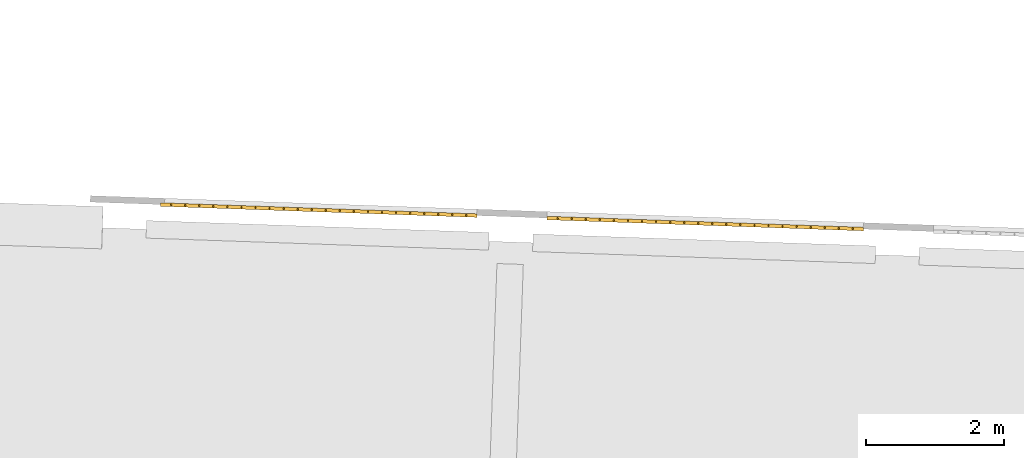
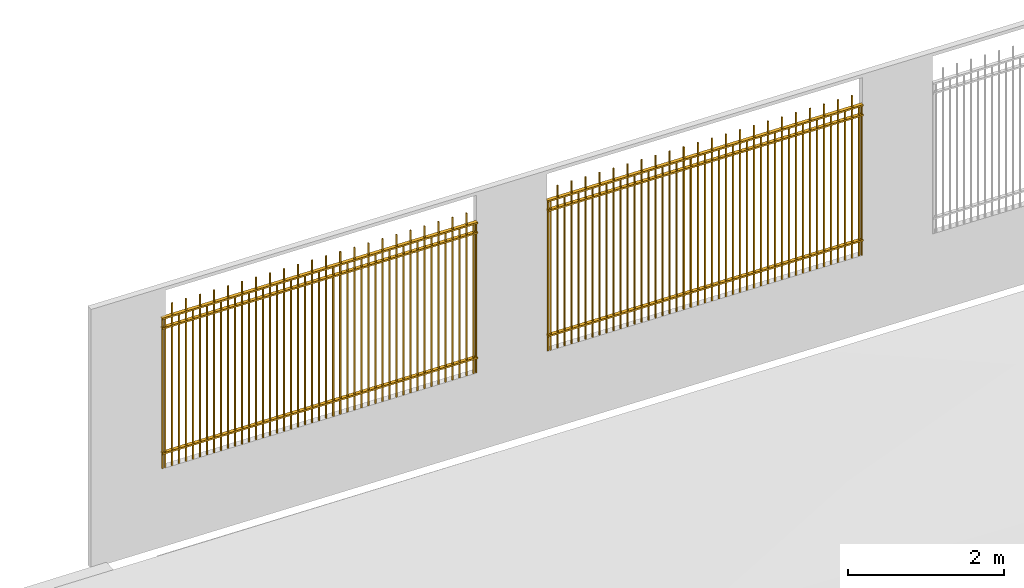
# One storey, part 13 of 17: 2 railings.
"""IFC2X3 building model written with IfcOpenShell, lengths in feet."""

from ifc_helpers import new_model, entity, si_unit, converted_unit, derived_unit, direction, frame, frame_2d, origin, origin_2d_with_axis, place, context, subcontext, project, spatial, rectangle, extrude, element, save


model = new_model("IFC2X3")

# Units and contexts
model_context = context("Model", 3, precision=0.0001, world=origin(), true_north=direction((0.999390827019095, 0.0348994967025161)))
body_context = subcontext(model_context, "Body", "Model", "MODEL_VIEW")
ifc_project = project(units=[converted_unit("LENGTHUNIT", "FOOT", entity("IfcRatioMeasure", 0.3048), si_unit("LENGTHUNIT", "METRE"), dimensions=[1, 0, 0, 0, 0, 0, 0]), converted_unit("AREAUNIT", "SQUARE FOOT", entity("IfcRatioMeasure", 0.09290304), si_unit("AREAUNIT", "SQUARE_METRE"), dimensions=[2, 0, 0, 0, 0, 0, 0]), converted_unit("VOLUMEUNIT", "CUBIC FOOT", entity("IfcRatioMeasure", 0.028316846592), si_unit("VOLUMEUNIT", "CUBIC_METRE"), dimensions=[3, 0, 0, 0, 0, 0, 0]), converted_unit("PLANEANGLEUNIT", "DEGREE", entity("IfcRatioMeasure", 0.0174532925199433), si_unit("PLANEANGLEUNIT", "RADIAN"), dimensions=[0, 0, 0, 0, 0, 0, 0]), si_unit("MASSUNIT", "GRAM", prefix="KILO"), si_unit("TIMEUNIT", "SECOND"), si_unit("FREQUENCYUNIT", "HERTZ"), si_unit("THERMODYNAMICTEMPERATUREUNIT", "DEGREE_CELSIUS"), derived_unit("THERMALTRANSMITTANCEUNIT", [(si_unit("MASSUNIT", "GRAM", prefix="KILO"), 1), (si_unit("THERMODYNAMICTEMPERATUREUNIT", "KELVIN"), -1), (si_unit("TIMEUNIT", "SECOND"), -3)]), derived_unit("VOLUMETRICFLOWRATEUNIT", [(si_unit("LENGTHUNIT", "METRE"), 3), (si_unit("TIMEUNIT", "SECOND"), -1)]), si_unit("ELECTRICCURRENTUNIT", "AMPERE"), si_unit("ELECTRICVOLTAGEUNIT", "VOLT"), si_unit("POWERUNIT", "WATT"), si_unit("FORCEUNIT", "NEWTON"), si_unit("ILLUMINANCEUNIT", "LUX"), si_unit("LUMINOUSFLUXUNIT", "LUMEN"), si_unit("LUMINOUSINTENSITYUNIT", "CANDELA"), derived_unit("USERDEFINED", [(si_unit("MASSUNIT", "GRAM", prefix="KILO"), -1), (si_unit("LENGTHUNIT", "METRE"), -2), (si_unit("TIMEUNIT", "SECOND"), 3), (si_unit("LUMINOUSFLUXUNIT", "LUMEN"), 1)]), derived_unit("LINEARVELOCITYUNIT", [(si_unit("LENGTHUNIT", "METRE"), 1), (si_unit("TIMEUNIT", "SECOND"), -1)]), si_unit("PRESSUREUNIT", "PASCAL"), derived_unit("USERDEFINED", [(si_unit("LENGTHUNIT", "METRE"), -2), (si_unit("MASSUNIT", "GRAM", prefix="KILO"), 1), (si_unit("TIMEUNIT", "SECOND"), -2)])], contexts=[model_context])

# Site, building, storey
site_placement = place(None, frame((892.518771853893, 322.38689265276, 0.00393700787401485), z_axis=(0.0, 0.0, 1.0), x_axis=(0.0348994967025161, 0.999390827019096, 0.0)))
site = spatial("IfcSite", under=ifc_project, at=site_placement, Name="Default", CompositionType="ELEMENT")
building_placement = place(site_placement, origin())
building = spatial("IfcBuilding", under=site, at=building_placement, CompositionType="ELEMENT")
storey_placement = place(building_placement, frame((0.0, 0.0, 557.0)))
storey = spatial("IfcBuildingStorey", under=building, at=storey_placement, Name="Existing Garage - 1st Level", CompositionType="ELEMENT", Elevation=557.0)

# Railings
railing_1_placement = place(storey_placement, origin())
element("IfcRailing", 1, at=railing_1_placement, inside=storey, Name="Railing:Garage Security Grille 8'-4\" High", ObjectType="Railing:Garage Security Grille 8'-4\" High", PredefinedType="NOTDEFINED", context=body_context, shape_type="SweptSolid", body=[
    extrude(rectangle(XDim=0.0625, YDim=0.0625, at=origin_2d_with_axis()), frame((224.1252097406, 344.920203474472, 0.75), z_axis=(0.0, 0.0, 1.0), x_axis=(0.0, 1.0, 0.0)), (0.0, 0.0, 1.0), 7.66666666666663),
    extrude(rectangle(XDim=0.0625, YDim=0.0625, at=origin_2d_with_axis()), frame((224.1252097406, 344.586870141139, 0.75), z_axis=(0.0, 0.0, 1.0), x_axis=(0.0, 1.0, 0.0)), (0.0, 0.0, 1.0), 8.33333333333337),
    extrude(rectangle(XDim=0.0625, YDim=0.0625, at=origin_2d_with_axis()), frame((224.1252097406, 344.253536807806, 0.75), z_axis=(0.0, 0.0, 1.0), x_axis=(0.0, 1.0, 0.0)), (0.0, 0.0, 1.0), 7.66666666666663),
    extrude(rectangle(XDim=0.0625, YDim=0.0625, at=origin_2d_with_axis()), frame((224.1252097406, 343.920203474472, 0.75), z_axis=(0.0, 0.0, 1.0), x_axis=(0.0, 1.0, 0.0)), (0.0, 0.0, 1.0), 8.33333333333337),
    extrude(rectangle(XDim=0.0625, YDim=0.0625, at=origin_2d_with_axis()), frame((224.1252097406, 343.586870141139, 0.75), z_axis=(0.0, 0.0, 1.0), x_axis=(0.0, 1.0, 0.0)), (0.0, 0.0, 1.0), 7.66666666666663),
    extrude(rectangle(XDim=0.0625, YDim=0.0625, at=origin_2d_with_axis()), frame((224.1252097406, 343.253536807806, 0.75), z_axis=(0.0, 0.0, 1.0), x_axis=(0.0, 1.0, 0.0)), (0.0, 0.0, 1.0), 8.33333333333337),
    extrude(rectangle(XDim=0.0625, YDim=0.0625, at=origin_2d_with_axis()), frame((224.1252097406, 342.920203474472, 0.75), z_axis=(0.0, 0.0, 1.0), x_axis=(0.0, 1.0, 0.0)), (0.0, 0.0, 1.0), 7.66666666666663),
    extrude(rectangle(XDim=0.0625, YDim=0.0625, at=origin_2d_with_axis()), frame((224.1252097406, 342.586870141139, 0.75), z_axis=(0.0, 0.0, 1.0), x_axis=(0.0, 1.0, 0.0)), (0.0, 0.0, 1.0), 8.33333333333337),
    extrude(rectangle(XDim=0.0625, YDim=0.0625, at=origin_2d_with_axis()), frame((224.1252097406, 342.253536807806, 0.75), z_axis=(0.0, 0.0, 1.0), x_axis=(0.0, 1.0, 0.0)), (0.0, 0.0, 1.0), 7.66666666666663),
    extrude(rectangle(XDim=0.0625, YDim=0.0625, at=origin_2d_with_axis()), frame((224.1252097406, 341.920203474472, 0.75), z_axis=(0.0, 0.0, 1.0), x_axis=(0.0, 1.0, 0.0)), (0.0, 0.0, 1.0), 8.33333333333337),
    extrude(rectangle(XDim=0.0625, YDim=0.0625, at=origin_2d_with_axis()), frame((224.1252097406, 341.586870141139, 0.75), z_axis=(0.0, 0.0, 1.0), x_axis=(0.0, 1.0, 0.0)), (0.0, 0.0, 1.0), 7.66666666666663),
    extrude(rectangle(XDim=0.0625, YDim=0.0625, at=origin_2d_with_axis()), frame((224.1252097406, 341.253536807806, 0.75), z_axis=(0.0, 0.0, 1.0), x_axis=(0.0, 1.0, 0.0)), (0.0, 0.0, 1.0), 8.33333333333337),
    extrude(rectangle(XDim=0.0625, YDim=0.0625, at=origin_2d_with_axis()), frame((224.1252097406, 340.920203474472, 0.75), z_axis=(0.0, 0.0, 1.0), x_axis=(0.0, 1.0, 0.0)), (0.0, 0.0, 1.0), 7.66666666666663),
    extrude(rectangle(XDim=0.0625, YDim=0.0625, at=origin_2d_with_axis()), frame((224.1252097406, 340.586870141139, 0.75), z_axis=(0.0, 0.0, 1.0), x_axis=(0.0, 1.0, 0.0)), (0.0, 0.0, 1.0), 8.33333333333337),
    extrude(rectangle(XDim=0.0625, YDim=0.0625, at=origin_2d_with_axis()), frame((224.1252097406, 340.253536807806, 0.75), z_axis=(0.0, 0.0, 1.0), x_axis=(0.0, 1.0, 0.0)), (0.0, 0.0, 1.0), 7.66666666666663),
    extrude(rectangle(XDim=0.0625, YDim=0.0625, at=origin_2d_with_axis()), frame((224.1252097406, 339.920203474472, 0.75), z_axis=(0.0, 0.0, 1.0), x_axis=(0.0, 1.0, 0.0)), (0.0, 0.0, 1.0), 8.33333333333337),
    extrude(rectangle(XDim=0.0625, YDim=0.0625, at=origin_2d_with_axis()), frame((224.1252097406, 339.586870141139, 0.75), z_axis=(0.0, 0.0, 1.0), x_axis=(0.0, 1.0, 0.0)), (0.0, 0.0, 1.0), 7.66666666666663),
    extrude(rectangle(XDim=0.0625, YDim=0.0625, at=origin_2d_with_axis()), frame((224.1252097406, 339.253536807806, 0.75), z_axis=(0.0, 0.0, 1.0), x_axis=(0.0, 1.0, 0.0)), (0.0, 0.0, 1.0), 8.33333333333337),
    extrude(rectangle(XDim=0.0625, YDim=0.0625, at=origin_2d_with_axis()), frame((224.1252097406, 338.920203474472, 0.75), z_axis=(0.0, 0.0, 1.0), x_axis=(0.0, 1.0, 0.0)), (0.0, 0.0, 1.0), 7.66666666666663),
    extrude(rectangle(XDim=0.0625, YDim=0.0625, at=origin_2d_with_axis()), frame((224.1252097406, 338.586870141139, 0.75), z_axis=(0.0, 0.0, 1.0), x_axis=(0.0, 1.0, 0.0)), (0.0, 0.0, 1.0), 8.33333333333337),
    extrude(rectangle(XDim=0.0625, YDim=0.0625, at=origin_2d_with_axis()), frame((224.1252097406, 338.253536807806, 0.75), z_axis=(0.0, 0.0, 1.0), x_axis=(0.0, 1.0, 0.0)), (0.0, 0.0, 1.0), 7.66666666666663),
    extrude(rectangle(XDim=0.0625, YDim=0.0625, at=origin_2d_with_axis()), frame((224.1252097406, 337.920203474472, 0.75), z_axis=(0.0, 0.0, 1.0), x_axis=(0.0, 1.0, 0.0)), (0.0, 0.0, 1.0), 8.33333333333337),
    extrude(rectangle(XDim=0.0625, YDim=0.0625, at=origin_2d_with_axis()), frame((224.1252097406, 337.586870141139, 0.75), z_axis=(0.0, 0.0, 1.0), x_axis=(0.0, 1.0, 0.0)), (0.0, 0.0, 1.0), 7.66666666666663),
    extrude(rectangle(XDim=0.0625, YDim=0.0625, at=origin_2d_with_axis()), frame((224.1252097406, 337.253536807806, 0.75), z_axis=(0.0, 0.0, 1.0), x_axis=(0.0, 1.0, 0.0)), (0.0, 0.0, 1.0), 8.33333333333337),
    extrude(rectangle(XDim=0.0625, YDim=0.0625, at=origin_2d_with_axis()), frame((224.1252097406, 336.920203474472, 0.75), z_axis=(0.0, 0.0, 1.0), x_axis=(0.0, 1.0, 0.0)), (0.0, 0.0, 1.0), 7.66666666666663),
    extrude(rectangle(XDim=0.0625, YDim=0.0625, at=origin_2d_with_axis()), frame((224.1252097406, 336.586870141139, 0.75), z_axis=(0.0, 0.0, 1.0), x_axis=(0.0, 1.0, 0.0)), (0.0, 0.0, 1.0), 8.33333333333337),
    extrude(rectangle(XDim=0.0625, YDim=0.0625, at=origin_2d_with_axis()), frame((224.1252097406, 336.253536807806, 0.75), z_axis=(0.0, 0.0, 1.0), x_axis=(0.0, 1.0, 0.0)), (0.0, 0.0, 1.0), 7.66666666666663),
    extrude(rectangle(XDim=0.0625, YDim=0.0625, at=origin_2d_with_axis()), frame((224.1252097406, 335.920203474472, 0.75), z_axis=(0.0, 0.0, 1.0), x_axis=(0.0, 1.0, 0.0)), (0.0, 0.0, 1.0), 8.33333333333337),
    extrude(rectangle(XDim=0.0625, YDim=0.0625, at=origin_2d_with_axis()), frame((224.1252097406, 335.586870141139, 0.75), z_axis=(0.0, 0.0, 1.0), x_axis=(0.0, 1.0, 0.0)), (0.0, 0.0, 1.0), 7.66666666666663),
    extrude(rectangle(XDim=0.0625, YDim=0.0625, at=origin_2d_with_axis()), frame((224.1252097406, 335.253536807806, 0.75), z_axis=(0.0, 0.0, 1.0), x_axis=(0.0, 1.0, 0.0)), (0.0, 0.0, 1.0), 8.33333333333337),
    extrude(rectangle(XDim=0.0625, YDim=0.0625, at=origin_2d_with_axis()), frame((224.1252097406, 334.920203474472, 0.75), z_axis=(0.0, 0.0, 1.0), x_axis=(0.0, 1.0, 0.0)), (0.0, 0.0, 1.0), 7.66666666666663),
    extrude(rectangle(XDim=0.0625, YDim=0.0625, at=origin_2d_with_axis()), frame((224.1252097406, 334.586870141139, 0.75), z_axis=(0.0, 0.0, 1.0), x_axis=(0.0, 1.0, 0.0)), (0.0, 0.0, 1.0), 8.33333333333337),
    extrude(rectangle(XDim=0.0625, YDim=0.0625, at=origin_2d_with_axis()), frame((224.1252097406, 334.253536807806, 0.75), z_axis=(0.0, 0.0, 1.0), x_axis=(0.0, 1.0, 0.0)), (0.0, 0.0, 1.0), 7.66666666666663),
    extrude(rectangle(XDim=0.0625, YDim=0.0625, at=origin_2d_with_axis()), frame((224.1252097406, 333.920203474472, 0.75), z_axis=(0.0, 0.0, 1.0), x_axis=(0.0, 1.0, 0.0)), (0.0, 0.0, 1.0), 8.33333333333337),
    extrude(rectangle(XDim=0.0625, YDim=0.0625, at=origin_2d_with_axis()), frame((224.1252097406, 333.586870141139, 0.75), z_axis=(0.0, 0.0, 1.0), x_axis=(0.0, 1.0, 0.0)), (0.0, 0.0, 1.0), 7.66666666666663),
    extrude(rectangle(XDim=0.0625, YDim=0.0625, at=origin_2d_with_axis()), frame((224.1252097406, 333.253536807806, 0.75), z_axis=(0.0, 0.0, 1.0), x_axis=(0.0, 1.0, 0.0)), (0.0, 0.0, 1.0), 8.33333333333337),
    extrude(rectangle(XDim=0.0625, YDim=0.0625, at=origin_2d_with_axis()), frame((224.1252097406, 332.920203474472, 0.75), z_axis=(0.0, 0.0, 1.0), x_axis=(0.0, 1.0, 0.0)), (0.0, 0.0, 1.0), 7.66666666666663),
    extrude(rectangle(XDim=0.0625, YDim=0.0625, at=origin_2d_with_axis()), frame((224.1252097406, 332.586870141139, 0.75), z_axis=(0.0, 0.0, 1.0), x_axis=(0.0, 1.0, 0.0)), (0.0, 0.0, 1.0), 8.33333333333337),
    extrude(rectangle(XDim=0.0625, YDim=0.0625, at=origin_2d_with_axis()), frame((224.1252097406, 332.253536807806, 0.75), z_axis=(0.0, 0.0, 1.0), x_axis=(0.0, 1.0, 0.0)), (0.0, 0.0, 1.0), 7.66666666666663),
    extrude(rectangle(XDim=0.0625, YDim=0.0625, at=origin_2d_with_axis()), frame((224.1252097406, 331.920203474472, 0.75), z_axis=(0.0, 0.0, 1.0), x_axis=(0.0, 1.0, 0.0)), (0.0, 0.0, 1.0), 8.33333333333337),
    extrude(rectangle(XDim=0.0625, YDim=0.0625, at=origin_2d_with_axis()), frame((224.1252097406, 331.586870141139, 0.75), z_axis=(0.0, 0.0, 1.0), x_axis=(0.0, 1.0, 0.0)), (0.0, 0.0, 1.0), 7.66666666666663),
    extrude(rectangle(XDim=0.0625, YDim=0.0625, at=origin_2d_with_axis()), frame((224.1252097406, 331.253536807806, 0.75), z_axis=(0.0, 0.0, 1.0), x_axis=(0.0, 1.0, 0.0)), (0.0, 0.0, 1.0), 8.33333333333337),
    extrude(rectangle(XDim=0.0625, YDim=0.0625, at=origin_2d_with_axis()), frame((224.1252097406, 330.920203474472, 0.75), z_axis=(0.0, 0.0, 1.0), x_axis=(0.0, 1.0, 0.0)), (0.0, 0.0, 1.0), 7.66666666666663),
    extrude(rectangle(XDim=0.0625, YDim=0.0625, at=origin_2d_with_axis()), frame((224.1252097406, 330.586870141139, 0.75), z_axis=(0.0, 0.0, 1.0), x_axis=(0.0, 1.0, 0.0)), (0.0, 0.0, 1.0), 8.33333333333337),
    extrude(rectangle(XDim=0.0625, YDim=0.0625, at=origin_2d_with_axis()), frame((224.1252097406, 330.253536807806, 0.75), z_axis=(0.0, 0.0, 1.0), x_axis=(0.0, 1.0, 0.0)), (0.0, 0.0, 1.0), 7.66666666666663),
    extrude(rectangle(XDim=0.0625, YDim=0.0625, at=origin_2d_with_axis()), frame((224.1252097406, 345.045203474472, 0.75), z_axis=(0.0, 0.0, 1.0), x_axis=(0.0, 1.0, 0.0)), (0.0, 0.0, 1.0), 7.66666666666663),
    extrude(rectangle(XDim=0.0625, YDim=0.0625, at=origin_2d_with_axis()), frame((224.1252097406, 330.128536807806, 0.75), z_axis=(0.0, 0.0, 1.0), x_axis=(0.0, 1.0, 0.0)), (0.0, 0.0, 1.0), 7.66666666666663),
    extrude(rectangle(XDim=14.9999999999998, YDim=0.166666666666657, at=frame_2d((2.8421709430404e-14, -1.4210854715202e-14), x_axis=(1.0, 0.0))), frame((224.1252097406, 337.586870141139, 8.41666666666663), z_axis=(0.0, 0.0, 1.0), x_axis=(0.0, 1.0, 0.0)), (0.0, 0.0, 1.0), 0.0833333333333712),
    extrude(rectangle(XDim=14.9999999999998, YDim=0.166666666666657, at=frame_2d((2.8421709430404e-14, -1.4210854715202e-14), x_axis=(1.0, 0.0))), frame((224.1252097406, 337.586870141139, 1.5), z_axis=(0.0, 0.0, 1.0), x_axis=(0.0, 1.0, 0.0)), (0.0, 0.0, 1.0), 0.0833333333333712),
    extrude(rectangle(XDim=14.9999999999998, YDim=0.166666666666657, at=frame_2d((2.8421709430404e-14, -1.4210854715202e-14), x_axis=(1.0, 0.0))), frame((224.1252097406, 337.586870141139, 7.91666666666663), z_axis=(0.0, 0.0, 1.0), x_axis=(0.0, 1.0, 0.0)), (0.0, 0.0, 1.0), 0.0833333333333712),
])
railing_2_placement = place(storey_placement, origin())
element("IfcRailing", 2, at=railing_2_placement, inside=storey, Name="Railing:Garage Security Grille 8'-4\" High", ObjectType="Railing:Garage Security Grille 8'-4\" High", PredefinedType="NOTDEFINED", context=body_context, shape_type="SweptSolid", body=[
    extrude(rectangle(XDim=0.0625, YDim=0.0625, at=origin_2d_with_axis()), frame((224.1252097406, 363.253536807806, 0.75), z_axis=(0.0, 0.0, 1.0), x_axis=(0.0, 1.0, 0.0)), (0.0, 0.0, 1.0), 7.66666666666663),
    extrude(rectangle(XDim=0.0625, YDim=0.0625, at=origin_2d_with_axis()), frame((224.1252097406, 362.920203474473, 0.75), z_axis=(0.0, 0.0, 1.0), x_axis=(0.0, 1.0, 0.0)), (0.0, 0.0, 1.0), 8.33333333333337),
    extrude(rectangle(XDim=0.0625, YDim=0.0625, at=origin_2d_with_axis()), frame((224.1252097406, 362.586870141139, 0.75), z_axis=(0.0, 0.0, 1.0), x_axis=(0.0, 1.0, 0.0)), (0.0, 0.0, 1.0), 7.66666666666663),
    extrude(rectangle(XDim=0.0625, YDim=0.0625, at=origin_2d_with_axis()), frame((224.1252097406, 362.253536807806, 0.75), z_axis=(0.0, 0.0, 1.0), x_axis=(0.0, 1.0, 0.0)), (0.0, 0.0, 1.0), 8.33333333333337),
    extrude(rectangle(XDim=0.0625, YDim=0.0625, at=origin_2d_with_axis()), frame((224.1252097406, 361.920203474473, 0.75), z_axis=(0.0, 0.0, 1.0), x_axis=(0.0, 1.0, 0.0)), (0.0, 0.0, 1.0), 7.66666666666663),
    extrude(rectangle(XDim=0.0625, YDim=0.0625, at=origin_2d_with_axis()), frame((224.1252097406, 361.586870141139, 0.75), z_axis=(0.0, 0.0, 1.0), x_axis=(0.0, 1.0, 0.0)), (0.0, 0.0, 1.0), 8.33333333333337),
    extrude(rectangle(XDim=0.0625, YDim=0.0625, at=origin_2d_with_axis()), frame((224.1252097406, 361.253536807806, 0.75), z_axis=(0.0, 0.0, 1.0), x_axis=(0.0, 1.0, 0.0)), (0.0, 0.0, 1.0), 7.66666666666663),
    extrude(rectangle(XDim=0.0625, YDim=0.0625, at=origin_2d_with_axis()), frame((224.1252097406, 360.920203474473, 0.75), z_axis=(0.0, 0.0, 1.0), x_axis=(0.0, 1.0, 0.0)), (0.0, 0.0, 1.0), 8.33333333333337),
    extrude(rectangle(XDim=0.0625, YDim=0.0625, at=origin_2d_with_axis()), frame((224.1252097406, 360.586870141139, 0.75), z_axis=(0.0, 0.0, 1.0), x_axis=(0.0, 1.0, 0.0)), (0.0, 0.0, 1.0), 7.66666666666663),
    extrude(rectangle(XDim=0.0625, YDim=0.0625, at=origin_2d_with_axis()), frame((224.1252097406, 360.253536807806, 0.75), z_axis=(0.0, 0.0, 1.0), x_axis=(0.0, 1.0, 0.0)), (0.0, 0.0, 1.0), 8.33333333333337),
    extrude(rectangle(XDim=0.0625, YDim=0.0625, at=origin_2d_with_axis()), frame((224.1252097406, 359.920203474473, 0.75), z_axis=(0.0, 0.0, 1.0), x_axis=(0.0, 1.0, 0.0)), (0.0, 0.0, 1.0), 7.66666666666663),
    extrude(rectangle(XDim=0.0625, YDim=0.0625, at=origin_2d_with_axis()), frame((224.1252097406, 359.586870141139, 0.75), z_axis=(0.0, 0.0, 1.0), x_axis=(0.0, 1.0, 0.0)), (0.0, 0.0, 1.0), 8.33333333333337),
    extrude(rectangle(XDim=0.0625, YDim=0.0625, at=origin_2d_with_axis()), frame((224.1252097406, 359.253536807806, 0.75), z_axis=(0.0, 0.0, 1.0), x_axis=(0.0, 1.0, 0.0)), (0.0, 0.0, 1.0), 7.66666666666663),
    extrude(rectangle(XDim=0.0625, YDim=0.0625, at=origin_2d_with_axis()), frame((224.1252097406, 358.920203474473, 0.75), z_axis=(0.0, 0.0, 1.0), x_axis=(0.0, 1.0, 0.0)), (0.0, 0.0, 1.0), 8.33333333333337),
    extrude(rectangle(XDim=0.0625, YDim=0.0625, at=origin_2d_with_axis()), frame((224.1252097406, 358.586870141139, 0.75), z_axis=(0.0, 0.0, 1.0), x_axis=(0.0, 1.0, 0.0)), (0.0, 0.0, 1.0), 7.66666666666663),
    extrude(rectangle(XDim=0.0625, YDim=0.0625, at=origin_2d_with_axis()), frame((224.1252097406, 358.253536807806, 0.75), z_axis=(0.0, 0.0, 1.0), x_axis=(0.0, 1.0, 0.0)), (0.0, 0.0, 1.0), 8.33333333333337),
    extrude(rectangle(XDim=0.0625, YDim=0.0625, at=origin_2d_with_axis()), frame((224.1252097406, 357.920203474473, 0.75), z_axis=(0.0, 0.0, 1.0), x_axis=(0.0, 1.0, 0.0)), (0.0, 0.0, 1.0), 7.66666666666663),
    extrude(rectangle(XDim=0.0625, YDim=0.0625, at=origin_2d_with_axis()), frame((224.1252097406, 357.586870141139, 0.75), z_axis=(0.0, 0.0, 1.0), x_axis=(0.0, 1.0, 0.0)), (0.0, 0.0, 1.0), 8.33333333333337),
    extrude(rectangle(XDim=0.0625, YDim=0.0625, at=origin_2d_with_axis()), frame((224.1252097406, 357.253536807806, 0.75), z_axis=(0.0, 0.0, 1.0), x_axis=(0.0, 1.0, 0.0)), (0.0, 0.0, 1.0), 7.66666666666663),
    extrude(rectangle(XDim=0.0625, YDim=0.0625, at=origin_2d_with_axis()), frame((224.1252097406, 356.920203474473, 0.75), z_axis=(0.0, 0.0, 1.0), x_axis=(0.0, 1.0, 0.0)), (0.0, 0.0, 1.0), 8.33333333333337),
    extrude(rectangle(XDim=0.0625, YDim=0.0625, at=origin_2d_with_axis()), frame((224.1252097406, 356.586870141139, 0.75), z_axis=(0.0, 0.0, 1.0), x_axis=(0.0, 1.0, 0.0)), (0.0, 0.0, 1.0), 7.66666666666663),
    extrude(rectangle(XDim=0.0625, YDim=0.0625, at=origin_2d_with_axis()), frame((224.1252097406, 356.253536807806, 0.75), z_axis=(0.0, 0.0, 1.0), x_axis=(0.0, 1.0, 0.0)), (0.0, 0.0, 1.0), 8.33333333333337),
    extrude(rectangle(XDim=0.0625, YDim=0.0625, at=origin_2d_with_axis()), frame((224.1252097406, 355.920203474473, 0.75), z_axis=(0.0, 0.0, 1.0), x_axis=(0.0, 1.0, 0.0)), (0.0, 0.0, 1.0), 7.66666666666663),
    extrude(rectangle(XDim=0.0625, YDim=0.0625, at=origin_2d_with_axis()), frame((224.1252097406, 355.586870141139, 0.75), z_axis=(0.0, 0.0, 1.0), x_axis=(0.0, 1.0, 0.0)), (0.0, 0.0, 1.0), 8.33333333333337),
    extrude(rectangle(XDim=0.0625, YDim=0.0625, at=origin_2d_with_axis()), frame((224.1252097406, 355.253536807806, 0.75), z_axis=(0.0, 0.0, 1.0), x_axis=(0.0, 1.0, 0.0)), (0.0, 0.0, 1.0), 7.66666666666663),
    extrude(rectangle(XDim=0.0625, YDim=0.0625, at=origin_2d_with_axis()), frame((224.1252097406, 354.920203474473, 0.75), z_axis=(0.0, 0.0, 1.0), x_axis=(0.0, 1.0, 0.0)), (0.0, 0.0, 1.0), 8.33333333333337),
    extrude(rectangle(XDim=0.0625, YDim=0.0625, at=origin_2d_with_axis()), frame((224.1252097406, 354.586870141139, 0.75), z_axis=(0.0, 0.0, 1.0), x_axis=(0.0, 1.0, 0.0)), (0.0, 0.0, 1.0), 7.66666666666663),
    extrude(rectangle(XDim=0.0625, YDim=0.0625, at=origin_2d_with_axis()), frame((224.1252097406, 354.253536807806, 0.75), z_axis=(0.0, 0.0, 1.0), x_axis=(0.0, 1.0, 0.0)), (0.0, 0.0, 1.0), 8.33333333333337),
    extrude(rectangle(XDim=0.0625, YDim=0.0625, at=origin_2d_with_axis()), frame((224.1252097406, 353.920203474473, 0.75), z_axis=(0.0, 0.0, 1.0), x_axis=(0.0, 1.0, 0.0)), (0.0, 0.0, 1.0), 7.66666666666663),
    extrude(rectangle(XDim=0.0625, YDim=0.0625, at=origin_2d_with_axis()), frame((224.1252097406, 353.586870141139, 0.75), z_axis=(0.0, 0.0, 1.0), x_axis=(0.0, 1.0, 0.0)), (0.0, 0.0, 1.0), 8.33333333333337),
    extrude(rectangle(XDim=0.0625, YDim=0.0625, at=origin_2d_with_axis()), frame((224.1252097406, 353.253536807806, 0.75), z_axis=(0.0, 0.0, 1.0), x_axis=(0.0, 1.0, 0.0)), (0.0, 0.0, 1.0), 7.66666666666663),
    extrude(rectangle(XDim=0.0625, YDim=0.0625, at=origin_2d_with_axis()), frame((224.1252097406, 352.920203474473, 0.75), z_axis=(0.0, 0.0, 1.0), x_axis=(0.0, 1.0, 0.0)), (0.0, 0.0, 1.0), 8.33333333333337),
    extrude(rectangle(XDim=0.0625, YDim=0.0625, at=origin_2d_with_axis()), frame((224.1252097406, 352.586870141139, 0.75), z_axis=(0.0, 0.0, 1.0), x_axis=(0.0, 1.0, 0.0)), (0.0, 0.0, 1.0), 7.66666666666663),
    extrude(rectangle(XDim=0.0625, YDim=0.0625, at=origin_2d_with_axis()), frame((224.1252097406, 352.253536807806, 0.75), z_axis=(0.0, 0.0, 1.0), x_axis=(0.0, 1.0, 0.0)), (0.0, 0.0, 1.0), 8.33333333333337),
    extrude(rectangle(XDim=0.0625, YDim=0.0625, at=origin_2d_with_axis()), frame((224.1252097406, 351.920203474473, 0.75), z_axis=(0.0, 0.0, 1.0), x_axis=(0.0, 1.0, 0.0)), (0.0, 0.0, 1.0), 7.66666666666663),
    extrude(rectangle(XDim=0.0625, YDim=0.0625, at=origin_2d_with_axis()), frame((224.1252097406, 351.586870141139, 0.75), z_axis=(0.0, 0.0, 1.0), x_axis=(0.0, 1.0, 0.0)), (0.0, 0.0, 1.0), 8.33333333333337),
    extrude(rectangle(XDim=0.0625, YDim=0.0625, at=origin_2d_with_axis()), frame((224.1252097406, 351.253536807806, 0.75), z_axis=(0.0, 0.0, 1.0), x_axis=(0.0, 1.0, 0.0)), (0.0, 0.0, 1.0), 7.66666666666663),
    extrude(rectangle(XDim=0.0625, YDim=0.0625, at=origin_2d_with_axis()), frame((224.1252097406, 350.920203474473, 0.75), z_axis=(0.0, 0.0, 1.0), x_axis=(0.0, 1.0, 0.0)), (0.0, 0.0, 1.0), 8.33333333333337),
    extrude(rectangle(XDim=0.0625, YDim=0.0625, at=origin_2d_with_axis()), frame((224.1252097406, 350.586870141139, 0.75), z_axis=(0.0, 0.0, 1.0), x_axis=(0.0, 1.0, 0.0)), (0.0, 0.0, 1.0), 7.66666666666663),
    extrude(rectangle(XDim=0.0625, YDim=0.0625, at=origin_2d_with_axis()), frame((224.1252097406, 350.253536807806, 0.75), z_axis=(0.0, 0.0, 1.0), x_axis=(0.0, 1.0, 0.0)), (0.0, 0.0, 1.0), 8.33333333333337),
    extrude(rectangle(XDim=0.0625, YDim=0.0625, at=origin_2d_with_axis()), frame((224.1252097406, 349.920203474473, 0.75), z_axis=(0.0, 0.0, 1.0), x_axis=(0.0, 1.0, 0.0)), (0.0, 0.0, 1.0), 7.66666666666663),
    extrude(rectangle(XDim=0.0625, YDim=0.0625, at=origin_2d_with_axis()), frame((224.1252097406, 349.586870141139, 0.75), z_axis=(0.0, 0.0, 1.0), x_axis=(0.0, 1.0, 0.0)), (0.0, 0.0, 1.0), 8.33333333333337),
    extrude(rectangle(XDim=0.0625, YDim=0.0625, at=origin_2d_with_axis()), frame((224.1252097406, 349.253536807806, 0.75), z_axis=(0.0, 0.0, 1.0), x_axis=(0.0, 1.0, 0.0)), (0.0, 0.0, 1.0), 7.66666666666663),
    extrude(rectangle(XDim=0.0625, YDim=0.0625, at=origin_2d_with_axis()), frame((224.1252097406, 348.920203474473, 0.75), z_axis=(0.0, 0.0, 1.0), x_axis=(0.0, 1.0, 0.0)), (0.0, 0.0, 1.0), 8.33333333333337),
    extrude(rectangle(XDim=0.0625, YDim=0.0625, at=origin_2d_with_axis()), frame((224.1252097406, 348.586870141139, 0.75), z_axis=(0.0, 0.0, 1.0), x_axis=(0.0, 1.0, 0.0)), (0.0, 0.0, 1.0), 7.66666666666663),
    extrude(rectangle(XDim=0.0625, YDim=0.0625, at=origin_2d_with_axis()), frame((224.1252097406, 363.378536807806, 0.75), z_axis=(0.0, 0.0, 1.0), x_axis=(0.0, 1.0, 0.0)), (0.0, 0.0, 1.0), 7.66666666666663),
    extrude(rectangle(XDim=0.0625, YDim=0.0625, at=origin_2d_with_axis()), frame((224.1252097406, 348.461870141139, 0.75), z_axis=(0.0, 0.0, 1.0), x_axis=(0.0, 1.0, 0.0)), (0.0, 0.0, 1.0), 7.66666666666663),
    extrude(rectangle(XDim=14.9999999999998, YDim=0.166666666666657, at=frame_2d((2.8421709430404e-14, -1.4210854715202e-14), x_axis=(1.0, 0.0))), frame((224.1252097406, 355.920203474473, 8.41666666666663), z_axis=(0.0, 0.0, 1.0), x_axis=(0.0, 1.0, 0.0)), (0.0, 0.0, 1.0), 0.0833333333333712),
    extrude(rectangle(XDim=14.9999999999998, YDim=0.166666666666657, at=frame_2d((2.8421709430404e-14, -1.4210854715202e-14), x_axis=(1.0, 0.0))), frame((224.1252097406, 355.920203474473, 1.5), z_axis=(0.0, 0.0, 1.0), x_axis=(0.0, 1.0, 0.0)), (0.0, 0.0, 1.0), 0.0833333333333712),
    extrude(rectangle(XDim=14.9999999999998, YDim=0.166666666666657, at=frame_2d((2.8421709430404e-14, -1.4210854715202e-14), x_axis=(1.0, 0.0))), frame((224.1252097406, 355.920203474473, 7.91666666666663), z_axis=(0.0, 0.0, 1.0), x_axis=(0.0, 1.0, 0.0)), (0.0, 0.0, 1.0), 0.0833333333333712),
])

save(model, "model.ifc")
